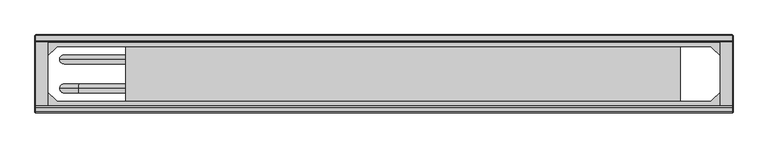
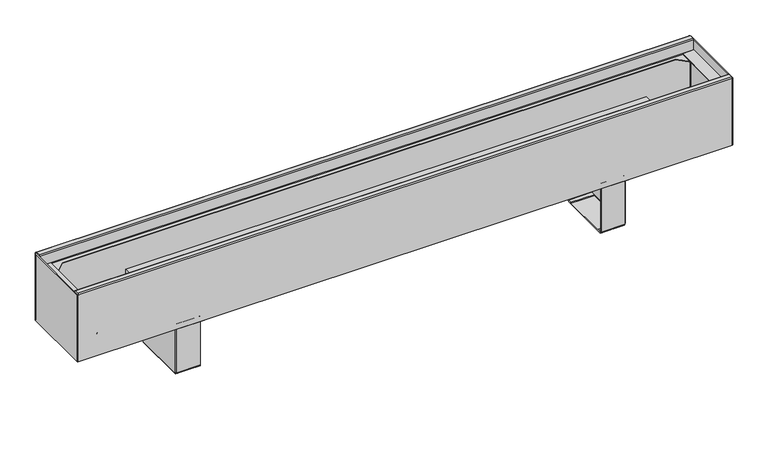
"""IFC4 building model written with IfcOpenShell, lengths in millimetres: proxy geometry, TECHNO_Конвектор напольный_Vita KPZ 135 : KPZ 135-130-1."""

from ifc_helpers import new_model, si_unit, point, frame, origin, place, context, project, spatial, polyline, circle_curve, ellipse_curve, trimmed, outline, extrude, source, transform, mapped, element, save
from ifc_brep_helpers import plane_surface, cylinder_surface, revolved_surface, advanced_brep


def mechanical_equipment_058be763(model_context):
    return source(origin(), model_context, "Body", "SolidModel", [
        advanced_brep(
        [(409.7, -116.8, 1.5), (409.7, -114.5, 3.8), (409.7, -114.5, 4.9), (409.7, -116.0, 4.9), (409.7, -116.0, 3.8), (409.7, -116.8, 3.0), (409.7, -124.5, 3.0), (409.7, -124.5, 1.5), (409.7, -117.6, 1.5), (409.7, -114.5, 97.7), (409.7, -113.7, 98.5), (409.7, -101.0, 98.5), (409.7, -101.0, 100.0), (409.7, -113.7, 100.0), (409.7, -116.0, 97.7), (409.7, -116.0, 95.5), (409.7, -114.5, 95.5), (409.7, -220.5, 3.8), (409.7, -218.2, 1.5), (409.7, -217.4, 1.5), (409.7, -210.5, 1.5), (409.7, -210.5, 3.0), (409.7, -218.2, 3.0), (409.7, -219.0, 3.8), (409.7, -219.0, 4.9), (409.7, -220.5, 4.9), (409.7, -219.0, 97.7), (409.7, -221.3, 100.0), (409.7, -234.0, 100.0), (409.7, -234.0, 98.5), (409.7, -221.3, 98.5), (409.7, -220.5, 97.7), (409.7, -220.5, 95.5), (409.7, -219.0, 95.5), (367.0, -220.5, 97.7), (367.0, -221.3, 98.5), (367.0, -234.0, 98.5), (367.0, -234.0, 100.0), (367.0, -221.3, 100.0), (367.0, -219.0, 97.7), (367.0, -219.0, 3.8), (367.0, -218.2, 3.0), (367.0, -210.5, 3.0), (367.0, -210.5, 1.5), (367.0, -124.5, 1.5), (367.0, -124.5, 3.0), (367.0, -116.8, 3.0), (367.0, -116.0, 3.8), (367.0, -116.0, 97.7), (367.0, -113.7, 100.0), (367.0, -101.0, 100.0), (367.0, -101.0, 98.5), (367.0, -113.7, 98.5), (367.0, -114.5, 97.7), (367.0, -114.5, 3.8), (367.0, -116.8, 1.5), (367.0, -117.6, 1.5), (367.0, -117.6, 0.0), (367.0, -217.4, 0.0), (367.0, -217.4, 1.5), (367.0, -218.2, 1.5), (367.0, -220.5, 3.8), (410.5, -116.8, 95.5), (410.5, -218.2, 95.5), (412.0, -218.2, 95.5), (412.0, -116.8, 95.5), (412.0, -116.8, 4.9), (412.0, -117.6, 4.9), (410.5, -117.6, 4.9), (410.5, -116.8, 4.9), (410.5, -218.2, 4.9), (410.5, -217.4, 4.9), (412.0, -217.4, 4.9), (412.0, -218.2, 4.9), (410.5, -117.6, 2.3), (410.5, -217.4, 2.3), (412.0, -217.4, 2.3), (412.0, -117.6, 2.3), (409.7, -117.6, 0.0), (409.7, -217.4, 0.0)],
        [
            (0, 1, circle_curve(frame((409.7, -116.8, 3.8), z_axis=(1.0, 0.0, 0.0), x_axis=(0.0, -1.0, 0.0)), 2.3)),
            (1, 2),
            (2, 3),
            (3, 4),
            (4, 5, circle_curve(frame((409.7, -116.8, 3.8), z_axis=(-1.0, 0.0, 0.0), x_axis=(0.0, -1.0, 0.0)), 0.8)),
            (5, 6),
            (6, 7),
            (7, 8),
            (8, 0),
            (9, 10, circle_curve(frame((409.7, -113.7, 97.7), z_axis=(-1.0, 0.0, 0.0), x_axis=(0.0, -1.0, 0.0)), 0.8)),
            (10, 11),
            (11, 12),
            (12, 13),
            (13, 14, circle_curve(frame((409.7, -113.7, 97.7), z_axis=(1.0, 0.0, 0.0), x_axis=(0.0, -1.0, 0.0)), 2.3)),
            (14, 15),
            (15, 16),
            (16, 9),
            (17, 18, circle_curve(frame((409.7, -218.2, 3.8), z_axis=(1.0, 0.0, 0.0), x_axis=(0.0, -1.0, 0.0)), 2.3)),
            (18, 19),
            (19, 20),
            (20, 21),
            (21, 22),
            (22, 23, circle_curve(frame((409.7, -218.2, 3.8), z_axis=(-1.0, 0.0, 0.0), x_axis=(0.0, -1.0, 0.0)), 0.8)),
            (23, 24),
            (24, 25),
            (25, 17),
            (26, 27, circle_curve(frame((409.7, -221.3, 97.7), z_axis=(1.0, 0.0, 0.0), x_axis=(0.0, -1.0, 0.0)), 2.3)),
            (27, 28),
            (28, 29),
            (29, 30),
            (30, 31, circle_curve(frame((409.7, -221.3, 97.7), z_axis=(-1.0, 0.0, 0.0), x_axis=(0.0, -1.0, 0.0)), 0.8)),
            (31, 32),
            (32, 33),
            (33, 26),
            (34, 35, circle_curve(frame((367.0, -221.3, 97.7), z_axis=(1.0, 0.0, 0.0), x_axis=(0.0, -1.0, 0.0)), 0.8)),
            (35, 36),
            (36, 37),
            (37, 38),
            (38, 39, circle_curve(frame((367.0, -221.3, 97.7), z_axis=(-1.0, 0.0, 0.0), x_axis=(0.0, -1.0, 0.0)), 2.3)),
            (39, 40),
            (40, 41, circle_curve(frame((367.0, -218.2, 3.8), z_axis=(1.0, 0.0, 0.0), x_axis=(0.0, -1.0, 0.0)), 0.8)),
            (41, 42),
            (42, 43),
            (43, 44),
            (44, 45),
            (45, 46),
            (46, 47, circle_curve(frame((367.0, -116.8, 3.8), z_axis=(1.0, 0.0, 0.0), x_axis=(0.0, -1.0, 0.0)), 0.8)),
            (47, 48),
            (48, 49, circle_curve(frame((367.0, -113.7, 97.7), z_axis=(-1.0, 0.0, 0.0), x_axis=(0.0, -1.0, 0.0)), 2.3)),
            (49, 50),
            (50, 51),
            (51, 52),
            (52, 53, circle_curve(frame((367.0, -113.7, 97.7), z_axis=(1.0, 0.0, 0.0), x_axis=(0.0, -1.0, 0.0)), 0.8)),
            (53, 54),
            (54, 55, circle_curve(frame((367.0, -116.8, 3.8), z_axis=(-1.0, 0.0, 0.0), x_axis=(0.0, -1.0, 0.0)), 2.3)),
            (55, 56),
            (56, 57),
            (57, 58),
            (58, 59),
            (59, 60),
            (60, 61, circle_curve(frame((367.0, -218.2, 3.8), z_axis=(-1.0, 0.0, 0.0), x_axis=(0.0, -1.0, 0.0)), 2.3)),
            (61, 34),
            (30, 35),
            (34, 31),
            (29, 36),
            (28, 37),
            (27, 38),
            (26, 39),
            (33, 24),
            (23, 40),
            (22, 41),
            (5, 46),
            (45, 6),
            (4, 47),
            (3, 15),
            (14, 48),
            (13, 49),
            (12, 50),
            (11, 51),
            (10, 52),
            (9, 53),
            (16, 2),
            (1, 54),
            (0, 55),
            (8, 56),
            (17, 61),
            (60, 18),
            (25, 32),
            (21, 42),
            (20, 43),
            (59, 19),
            (44, 7),
            (15, 62, circle_curve(frame((409.7, -116.8, 95.5), z_axis=(0.0, 0.0, -1.0), x_axis=(-1.0, 0.0, 0.0)), 0.8)),
            (62, 63),
            (63, 33, circle_curve(frame((409.7, -218.2, 95.5), z_axis=(0.0, 0.0, -1.0), x_axis=(-1.0, 0.0, 0.0)), 0.8)),
            (32, 64, circle_curve(frame((409.7, -218.2, 95.5), z_axis=(0.0, 0.0, 1.0), x_axis=(-1.0, 0.0, 0.0)), 2.3)),
            (64, 65),
            (65, 16, circle_curve(frame((409.7, -116.8, 95.5), z_axis=(0.0, 0.0, 1.0), x_axis=(-1.0, 0.0, 0.0)), 2.3)),
            (2, 66, circle_curve(frame((409.7, -116.8, 4.9), z_axis=(0.0, 0.0, -1.0), x_axis=(-1.0, 0.0, 0.0)), 2.3)),
            (66, 67),
            (67, 68),
            (68, 69),
            (69, 3, circle_curve(frame((409.7, -116.8, 4.9), z_axis=(0.0, 0.0, 1.0), x_axis=(-1.0, 0.0, 0.0)), 0.8)),
            (24, 70, circle_curve(frame((409.7, -218.2, 4.9), z_axis=(0.0, 0.0, 1.0), x_axis=(-1.0, 0.0, 0.0)), 0.8)),
            (70, 71),
            (71, 72),
            (72, 73),
            (73, 25, circle_curve(frame((409.7, -218.2, 4.9), z_axis=(0.0, 0.0, -1.0), x_axis=(-1.0, 0.0, 0.0)), 2.3)),
            (69, 62),
            (68, 74),
            (74, 75),
            (75, 71),
            (70, 63),
            (64, 73),
            (72, 76),
            (76, 77),
            (77, 67),
            (66, 65),
            (8, 74, circle_curve(frame((409.7, -117.6, 2.3), z_axis=(0.0, -1.0, 0.0), x_axis=(-1.0, 0.0, 0.0)), 0.8)),
            (77, 78, circle_curve(frame((409.7, -117.6, 2.3), z_axis=(0.0, 1.0, 0.0), x_axis=(-1.0, 0.0, 0.0)), 2.3)),
            (78, 57),
            (58, 79),
            (79, 76, circle_curve(frame((409.7, -217.4, 2.3), z_axis=(0.0, -1.0, 0.0), x_axis=(-1.0, 0.0, 0.0)), 2.3)),
            (75, 19, circle_curve(frame((409.7, -217.4, 2.3), z_axis=(0.0, 1.0, 0.0), x_axis=(-1.0, 0.0, 0.0)), 0.8)),
            (20, 7),
            (79, 78),
        ],
        [
            plane_surface(frame((409.7, -222.1, 97.7), z_axis=(1.0, 0.0, 0.0), x_axis=(0.0, 0.0, 1.0))),
            plane_surface(frame((367.0, -222.1, 97.7), z_axis=(-1.0, 0.0, 0.0), x_axis=(0.0, 0.0, -1.0))),
            revolved_surface(polyline([(409.7, -222.10000000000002, 97.7), (367.0, -222.10000000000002, 97.7)]), (409.7, -221.3, 97.7), (1.0, 0.0, 0.0)),
            plane_surface(frame((367.0, -221.3, 98.5), z_axis=(0.0, 0.0, -1.0), x_axis=(1.0, 0.0, 0.0))),
            plane_surface(frame((367.0, -234.0, 98.5), z_axis=(0.0, -1.0, 0.0), x_axis=(1.0, 0.0, 0.0))),
            plane_surface(frame((367.0, -234.0, 100.0), z_axis=(0.0, 0.0, 1.0), x_axis=(1.0, 0.0, 0.0))),
            cylinder_surface(frame((409.7, -221.3, 97.7), z_axis=(-1.0, 0.0, 0.0), x_axis=(0.0, -1.0, 0.0)), 2.3),
            plane_surface(frame((367.0, -219.0, 97.7), z_axis=(0.0, 1.0, 0.0), x_axis=(1.0, 0.0, 0.0))),
            revolved_surface(polyline([(409.7, -219.0, 3.8), (367.0, -219.0, 3.8)]), (409.7, -218.2, 3.8), (1.0, 0.0, 0.0)),
            plane_surface(frame((367.0, -124.5, 3.0), z_axis=(0.0, 0.0, 1.0), x_axis=(1.0, 0.0, 0.0))),
            revolved_surface(polyline([(409.7, -117.6, 3.8), (367.0, -117.6, 3.8)]), (412.0, -116.8, 3.8), (1.0, 0.0, 0.0)),
            plane_surface(frame((367.0, -116.0, 3.8), z_axis=(0.0, -1.0, 0.0), x_axis=(1.0, 0.0, 0.0))),
            cylinder_surface(frame((412.0, -113.7, 97.7), z_axis=(-1.0, 0.0, 0.0), x_axis=(0.0, -1.0, 0.0)), 2.3),
            plane_surface(frame((367.0, -113.7, 100.0), z_axis=(0.0, 0.0, 1.0), x_axis=(1.0, 0.0, 0.0))),
            plane_surface(frame((367.0, -101.0, 100.0), z_axis=(0.0, 1.0, 0.0), x_axis=(1.0, 0.0, 0.0))),
            plane_surface(frame((367.0, -101.0, 98.5), z_axis=(0.0, 0.0, -1.0), x_axis=(1.0, 0.0, 0.0))),
            revolved_surface(polyline([(409.7, -114.5, 97.7), (367.0, -114.5, 97.7)]), (412.0, -113.7, 97.7), (1.0, 0.0, 0.0)),
            plane_surface(frame((367.0, -114.5, 97.7), z_axis=(0.0, 1.0, 0.0), x_axis=(1.0, 0.0, 0.0))),
            cylinder_surface(frame((412.0, -116.8, 3.8), z_axis=(-1.0, 0.0, 0.0), x_axis=(0.0, -1.0, 0.0)), 2.3),
            plane_surface(frame((367.0, -116.8, 1.5), z_axis=(0.0, 0.0, -1.0), x_axis=(1.0, 0.0, 0.0))),
            cylinder_surface(frame((409.7, -218.2, 3.8), z_axis=(-1.0, 0.0, 0.0), x_axis=(0.0, -1.0, 0.0)), 2.3),
            plane_surface(frame((367.0, -220.5, 3.8), z_axis=(0.0, -1.0, 0.0), x_axis=(1.0, 0.0, 0.0))),
            plane_surface(frame((367.0, -218.2, 3.0), z_axis=(0.0, 0.0, 1.0), x_axis=(1.0, 0.0, 0.0))),
            plane_surface(frame((367.0, -210.5, 3.0), z_axis=(0.0, 1.0, 0.0), x_axis=(1.0, 0.0, 0.0))),
            plane_surface(frame((367.0, -210.5, 1.5), z_axis=(0.0, 0.0, -1.0), x_axis=(1.0, 0.0, 0.0))),
            plane_surface(frame((367.0, -124.5, 1.5), z_axis=(0.0, -1.0, 0.0), x_axis=(1.0, 0.0, 0.0))),
            plane_surface(frame((409.7, -116.0, 95.5), z_axis=(0.0, 0.0, 1.0), x_axis=(0.0, -1.0, 0.0))),
            plane_surface(frame((409.7, -116.0, 4.9), z_axis=(0.0, 0.0, -1.0), x_axis=(0.0, 1.0, 0.0))),
            revolved_surface(polyline([(408.9, -116.8, 4.9), (408.9, -116.8, 95.5)]), (409.7, -116.8, 4.9), (0.0, 0.0, -1.0)),
            plane_surface(frame((410.5, -116.8, 95.5), z_axis=(-1.0, 0.0, 0.0), x_axis=(0.0, 0.0, -1.0))),
            plane_surface(frame((412.0, -117.6, 95.5), z_axis=(1.0, 0.0, 0.0), x_axis=(0.0, 0.0, -1.0))),
            cylinder_surface(frame((409.7, -116.8, 4.9), z_axis=(0.0, 0.0, 1.0), x_axis=(-1.0, 0.0, 0.0)), 2.3),
            cylinder_surface(frame((409.7, -218.2, 0.0), z_axis=(0.0, 0.0, 1.0), x_axis=(-1.0, 0.0, 0.0)), 2.3),
            revolved_surface(polyline([(408.9, -218.2, 4.9), (408.9, -218.2, 95.5)]), (409.7, -218.2, 0.0), (0.0, 0.0, -1.0)),
            plane_surface(frame((367.0, -117.6, 1.5), z_axis=(0.0, 1.0, 0.0), x_axis=(0.0, 0.0, 1.0))),
            plane_surface(frame((367.0, -217.4, 1.5), z_axis=(0.0, -1.0, 0.0), x_axis=(0.0, 0.0, -1.0))),
            plane_surface(frame((367.0, -117.6, 1.5), z_axis=(0.0, 0.0, 1.0), x_axis=(0.0, -1.0, 0.0))),
            revolved_surface(polyline([(408.9, -217.4, 2.3), (408.9, -117.6, 2.3)]), (409.7, -217.4, 2.3), (0.0, -1.0, 0.0)),
            cylinder_surface(frame((409.7, -217.4, 2.3), z_axis=(0.0, 1.0, 0.0), x_axis=(-1.0, 0.0, 0.0)), 2.3),
            plane_surface(frame((409.7, -117.6, 0.0), z_axis=(0.0, 0.0, -1.0), x_axis=(0.0, -1.0, 0.0))),
        ],
        [
            (0, [[1, 2, 3, 4, 5, 6, 7, 8, 9]]),
            (0, [[10, 11, 12, 13, 14, 15, 16, 17]]),
            (0, [[18, 19, 20, 21, 22, 23, 24, 25, 26]]),
            (0, [[27, 28, 29, 30, 31, 32, 33, 34]]),
            (1, [[35, 36, 37, 38, 39, 40, 41, 42, 43, 44, 45, 46, 47, 48, 49, 50, 51, 52, 53, 54, 55, 56, 57, 58, 59, 60, 61, 62]]),
            (2, [[-31, 63, -35, 64]]),
            (3, [[-30, 65, -36, -63]]),
            (4, [[-29, 66, -37, -65]]),
            (5, [[-28, 67, -38, -66]]),
            (6, [[-27, 68, -39, -67]]),
            (7, [[-40, -68, -34, 69, -24, 70]]),
            (8, [[-23, 71, -41, -70]]),
            (9, [[-6, 72, -46, 73]]),
            (10, [[-5, 74, -47, -72]]),
            (11, [[-48, -74, -4, 75, -15, 76]]),
            (12, [[-14, 77, -49, -76]]),
            (13, [[-13, 78, -50, -77]]),
            (14, [[-12, 79, -51, -78]]),
            (15, [[-11, 80, -52, -79]]),
            (16, [[-10, 81, -53, -80]]),
            (17, [[-54, -81, -17, 82, -2, 83]]),
            (18, [[-1, 84, -55, -83]]),
            (19, [[-84, -9, 85, -56]]),
            (20, [[-18, 86, -61, 87]]),
            (21, [[-62, -86, -26, 88, -32, -64]]),
            (22, [[-22, 89, -42, -71]]),
            (23, [[-21, 90, -43, -89]]),
            (24, [[-87, -60, 91, -19]]),
            (25, [[-7, -73, -45, 92]]),
            (26, [[93, 94, 95, -33, 96, 97, 98, -16]]),
            (27, [[99, 100, 101, 102, 103, -3]]),
            (27, [[104, 105, 106, 107, 108, -25]]),
            (28, [[-93, -75, -103, 109]]),
            (29, [[-94, -109, -102, 110, 111, 112, -105, 113]]),
            (30, [[-97, 114, -107, 115, 116, 117, -100, 118]]),
            (31, [[-98, -118, -99, -82]]),
            (32, [[-96, -88, -108, -114]]),
            (33, [[-95, -113, -104, -69]]),
            (34, [[-57, -85, 119, -110, -101, -117, 120, 121]]),
            (35, [[122, 123, -115, -106, -112, 124, -91, -59]]),
            (36, [[125, -92, -44, -90]]),
            (37, [[-119, -8, -125, -20, -124, -111]]),
            (38, [[-120, -116, -123, 126]]),
            (39, [[-121, -126, -122, -58]]),
        ],
    ),
        advanced_brep(
        [(-409.7, -218.2, 1.5), (-409.7, -220.5, 3.8), (-409.7, -220.5, 4.9), (-409.7, -219.0, 4.9), (-409.7, -219.0, 3.8), (-409.7, -218.2, 3.0), (-409.7, -210.5, 3.0), (-409.7, -210.5, 1.5), (-409.7, -217.4, 1.5), (-409.7, -220.5, 97.7), (-409.7, -221.3, 98.5), (-409.7, -234.0, 98.5), (-409.7, -234.0, 100.0), (-409.7, -221.3, 100.0), (-409.7, -219.0, 97.7), (-409.7, -219.0, 95.5), (-409.7, -220.5, 95.5), (-409.7, -114.5, 3.8), (-409.7, -116.8, 1.5), (-409.7, -117.6, 1.5), (-409.7, -124.5, 1.5), (-409.7, -124.5, 3.0), (-409.7, -116.8, 3.0), (-409.7, -116.0, 3.8), (-409.7, -116.0, 4.9), (-409.7, -114.5, 4.9), (-409.7, -116.0, 97.7), (-409.7, -113.7, 100.0), (-409.7, -101.0, 100.0), (-409.7, -101.0, 98.5), (-409.7, -113.7, 98.5), (-409.7, -114.5, 97.7), (-409.7, -114.5, 95.5), (-409.7, -116.0, 95.5), (-367.0, -114.5, 97.7), (-367.0, -113.7, 98.5), (-367.0, -101.0, 98.5), (-367.0, -101.0, 100.0), (-367.0, -113.7, 100.0), (-367.0, -116.0, 97.7), (-367.0, -116.0, 3.8), (-367.0, -116.8, 3.0), (-367.0, -124.5, 3.0), (-367.0, -124.5, 1.5), (-367.0, -210.5, 1.5), (-367.0, -210.5, 3.0), (-367.0, -218.2, 3.0), (-367.0, -219.0, 3.8), (-367.0, -219.0, 97.7), (-367.0, -221.3, 100.0), (-367.0, -234.0, 100.0), (-367.0, -234.0, 98.5), (-367.0, -221.3, 98.5), (-367.0, -220.5, 97.7), (-367.0, -220.5, 3.8), (-367.0, -218.2, 1.5), (-367.0, -217.4, 1.5), (-367.0, -217.4, 0.0), (-367.0, -117.6, 0.0), (-367.0, -117.6, 1.5), (-367.0, -116.8, 1.5), (-367.0, -114.5, 3.8), (-410.5, -218.2, 95.5), (-410.5, -116.8, 95.5), (-412.0, -116.8, 95.5), (-412.0, -218.2, 95.5), (-412.0, -218.2, 4.9), (-412.0, -217.4, 4.9), (-410.5, -217.4, 4.9), (-410.5, -218.2, 4.9), (-410.5, -116.8, 4.9), (-410.5, -117.6, 4.9), (-412.0, -117.6, 4.9), (-412.0, -116.8, 4.9), (-410.5, -217.4, 2.3), (-410.5, -117.6, 2.3), (-412.0, -117.6, 2.3), (-412.0, -217.4, 2.3), (-409.7, -217.4, 0.0), (-409.7, -117.6, 0.0)],
        [
            (0, 1, circle_curve(frame((-409.7, -218.2, 3.8), z_axis=(-1.0, 0.0, 0.0), x_axis=(0.0, 1.0, 0.0)), 2.3)),
            (1, 2),
            (2, 3),
            (3, 4),
            (4, 5, circle_curve(frame((-409.7, -218.2, 3.8), z_axis=(1.0, 0.0, 0.0), x_axis=(0.0, 1.0, 0.0)), 0.8)),
            (5, 6),
            (6, 7),
            (7, 8),
            (8, 0),
            (9, 10, circle_curve(frame((-409.7, -221.3, 97.7), z_axis=(1.0, 0.0, 0.0), x_axis=(0.0, 1.0, 0.0)), 0.8)),
            (10, 11),
            (11, 12),
            (12, 13),
            (13, 14, circle_curve(frame((-409.7, -221.3, 97.7), z_axis=(-1.0, 0.0, 0.0), x_axis=(0.0, 1.0, 0.0)), 2.3)),
            (14, 15),
            (15, 16),
            (16, 9),
            (17, 18, circle_curve(frame((-409.7, -116.8, 3.8), z_axis=(-1.0, 0.0, 0.0), x_axis=(0.0, 1.0, 0.0)), 2.3)),
            (18, 19),
            (19, 20),
            (20, 21),
            (21, 22),
            (22, 23, circle_curve(frame((-409.7, -116.8, 3.8), z_axis=(1.0, 0.0, 0.0), x_axis=(0.0, 1.0, 0.0)), 0.8)),
            (23, 24),
            (24, 25),
            (25, 17),
            (26, 27, circle_curve(frame((-409.7, -113.7, 97.7), z_axis=(-1.0, 0.0, 0.0), x_axis=(0.0, 1.0, 0.0)), 2.3)),
            (27, 28),
            (28, 29),
            (29, 30),
            (30, 31, circle_curve(frame((-409.7, -113.7, 97.7), z_axis=(1.0, 0.0, 0.0), x_axis=(0.0, 1.0, 0.0)), 0.8)),
            (31, 32),
            (32, 33),
            (33, 26),
            (34, 35, circle_curve(frame((-367.0, -113.7, 97.7), z_axis=(-1.0, 0.0, 0.0), x_axis=(0.0, 1.0, 0.0)), 0.8)),
            (35, 36),
            (36, 37),
            (37, 38),
            (38, 39, circle_curve(frame((-367.0, -113.7, 97.7), z_axis=(1.0, 0.0, 0.0), x_axis=(0.0, 1.0, 0.0)), 2.3)),
            (39, 40),
            (40, 41, circle_curve(frame((-367.0, -116.8, 3.8), z_axis=(-1.0, 0.0, 0.0), x_axis=(0.0, 1.0, 0.0)), 0.8)),
            (41, 42),
            (42, 43),
            (43, 44),
            (44, 45),
            (45, 46),
            (46, 47, circle_curve(frame((-367.0, -218.2, 3.8), z_axis=(-1.0, 0.0, 0.0), x_axis=(0.0, 1.0, 0.0)), 0.8)),
            (47, 48),
            (48, 49, circle_curve(frame((-367.0, -221.3, 97.7), z_axis=(1.0, 0.0, 0.0), x_axis=(0.0, 1.0, 0.0)), 2.3)),
            (49, 50),
            (50, 51),
            (51, 52),
            (52, 53, circle_curve(frame((-367.0, -221.3, 97.7), z_axis=(-1.0, 0.0, 0.0), x_axis=(0.0, 1.0, 0.0)), 0.8)),
            (53, 54),
            (54, 55, circle_curve(frame((-367.0, -218.2, 3.8), z_axis=(1.0, 0.0, 0.0), x_axis=(0.0, 1.0, 0.0)), 2.3)),
            (55, 56),
            (56, 57),
            (57, 58),
            (58, 59),
            (59, 60),
            (60, 61, circle_curve(frame((-367.0, -116.8, 3.8), z_axis=(1.0, 0.0, 0.0), x_axis=(0.0, 1.0, 0.0)), 2.3)),
            (61, 34),
            (30, 35),
            (34, 31),
            (29, 36),
            (28, 37),
            (27, 38),
            (26, 39),
            (33, 24),
            (23, 40),
            (22, 41),
            (5, 46),
            (45, 6),
            (4, 47),
            (3, 15),
            (14, 48),
            (13, 49),
            (12, 50),
            (11, 51),
            (10, 52),
            (9, 53),
            (16, 2),
            (1, 54),
            (0, 55),
            (8, 56),
            (17, 61),
            (60, 18),
            (25, 32),
            (21, 42),
            (20, 43),
            (59, 19),
            (44, 7),
            (15, 62, circle_curve(frame((-409.7, -218.2, 95.5), z_axis=(0.0, 0.0, -1.0), x_axis=(1.0, 0.0, 0.0)), 0.8)),
            (62, 63),
            (63, 33, circle_curve(frame((-409.7, -116.8, 95.5), z_axis=(0.0, 0.0, -1.0), x_axis=(1.0, 0.0, 0.0)), 0.8)),
            (32, 64, circle_curve(frame((-409.7, -116.8, 95.5), z_axis=(0.0, 0.0, 1.0), x_axis=(1.0, 0.0, 0.0)), 2.3)),
            (64, 65),
            (65, 16, circle_curve(frame((-409.7, -218.2, 95.5), z_axis=(0.0, 0.0, 1.0), x_axis=(1.0, 0.0, 0.0)), 2.3)),
            (2, 66, circle_curve(frame((-409.7, -218.2, 4.9), z_axis=(0.0, 0.0, -1.0), x_axis=(1.0, 0.0, 0.0)), 2.3)),
            (66, 67),
            (67, 68),
            (68, 69),
            (69, 3, circle_curve(frame((-409.7, -218.2, 4.9), z_axis=(0.0, 0.0, 1.0), x_axis=(1.0, 0.0, 0.0)), 0.8)),
            (24, 70, circle_curve(frame((-409.7, -116.8, 4.9), z_axis=(0.0, 0.0, 1.0), x_axis=(1.0, 0.0, 0.0)), 0.8)),
            (70, 71),
            (71, 72),
            (72, 73),
            (73, 25, circle_curve(frame((-409.7, -116.8, 4.9), z_axis=(0.0, 0.0, -1.0), x_axis=(1.0, 0.0, 0.0)), 2.3)),
            (69, 62),
            (68, 74),
            (74, 75),
            (75, 71),
            (70, 63),
            (64, 73),
            (72, 76),
            (76, 77),
            (77, 67),
            (66, 65),
            (8, 74, circle_curve(frame((-409.7, -217.4, 2.3), z_axis=(0.0, 1.0, 0.0), x_axis=(1.0, 0.0, 0.0)), 0.8)),
            (77, 78, circle_curve(frame((-409.7, -217.4, 2.3), z_axis=(0.0, -1.0, 0.0), x_axis=(1.0, 0.0, 0.0)), 2.3)),
            (78, 57),
            (58, 79),
            (79, 76, circle_curve(frame((-409.7, -117.6, 2.3), z_axis=(0.0, 1.0, 0.0), x_axis=(1.0, 0.0, 0.0)), 2.3)),
            (75, 19, circle_curve(frame((-409.7, -117.6, 2.3), z_axis=(0.0, -1.0, 0.0), x_axis=(1.0, 0.0, 0.0)), 0.8)),
            (20, 7),
            (79, 78),
        ],
        [
            plane_surface(frame((-409.7, -112.9, 97.7), z_axis=(-1.0, 0.0, 0.0), x_axis=(0.0, 0.0, 1.0))),
            plane_surface(frame((-367.0, -112.9, 97.7), z_axis=(1.0, 0.0, 0.0), x_axis=(0.0, 0.0, -1.0))),
            revolved_surface(polyline([(-409.7, -112.9, 97.7), (-367.0, -112.9, 97.7)]), (-409.7, -113.7, 97.7), (-1.0, 0.0, 0.0)),
            plane_surface(frame((-367.0, -113.7, 98.5), z_axis=(0.0, 0.0, -1.0), x_axis=(-1.0, 0.0, 0.0))),
            plane_surface(frame((-367.0, -101.0, 98.5), z_axis=(0.0, 1.0, 0.0), x_axis=(-1.0, 0.0, 0.0))),
            plane_surface(frame((-367.0, -101.0, 100.0), z_axis=(0.0, 0.0, 1.0), x_axis=(-1.0, 0.0, 0.0))),
            cylinder_surface(frame((-409.7, -113.7, 97.7), z_axis=(1.0, 0.0, 0.0), x_axis=(0.0, 1.0, 0.0)), 2.3),
            plane_surface(frame((-367.0, -116.0, 97.7), z_axis=(0.0, -1.0, 0.0), x_axis=(-1.0, 0.0, 0.0))),
            revolved_surface(polyline([(-409.7, -116.0, 3.8), (-367.0, -116.0, 3.8)]), (-409.7, -116.8, 3.8), (-1.0, 0.0, 0.0)),
            plane_surface(frame((-367.0, -210.5, 3.0), z_axis=(0.0, 0.0, 1.0), x_axis=(-1.0, 0.0, 0.0))),
            revolved_surface(polyline([(-409.7, -217.39999999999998, 3.8), (-367.0, -217.39999999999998, 3.8)]), (-412.0, -218.2, 3.8), (-1.0, 0.0, 0.0)),
            plane_surface(frame((-367.0, -219.0, 3.8), z_axis=(0.0, 1.0, 0.0), x_axis=(-1.0, 0.0, 0.0))),
            cylinder_surface(frame((-412.0, -221.3, 97.7), z_axis=(1.0, 0.0, 0.0), x_axis=(0.0, 1.0, 0.0)), 2.3),
            plane_surface(frame((-367.0, -221.3, 100.0), z_axis=(0.0, 0.0, 1.0), x_axis=(-1.0, 0.0, 0.0))),
            plane_surface(frame((-367.0, -234.0, 100.0), z_axis=(0.0, -1.0, 0.0), x_axis=(-1.0, 0.0, 0.0))),
            plane_surface(frame((-367.0, -234.0, 98.5), z_axis=(0.0, 0.0, -1.0), x_axis=(-1.0, 0.0, 0.0))),
            revolved_surface(polyline([(-409.7, -220.5, 97.7), (-367.0, -220.5, 97.7)]), (-412.0, -221.3, 97.7), (-1.0, 0.0, 0.0)),
            plane_surface(frame((-367.0, -220.5, 97.7), z_axis=(0.0, -1.0, 0.0), x_axis=(-1.0, 0.0, 0.0))),
            cylinder_surface(frame((-412.0, -218.2, 3.8), z_axis=(1.0, 0.0, 0.0), x_axis=(0.0, 1.0, 0.0)), 2.3),
            plane_surface(frame((-367.0, -218.2, 1.5), z_axis=(0.0, 0.0, -1.0), x_axis=(-1.0, 0.0, 0.0))),
            cylinder_surface(frame((-409.7, -116.8, 3.8), z_axis=(1.0, 0.0, 0.0), x_axis=(0.0, 1.0, 0.0)), 2.3),
            plane_surface(frame((-367.0, -114.5, 3.8), z_axis=(0.0, 1.0, 0.0), x_axis=(-1.0, 0.0, 0.0))),
            plane_surface(frame((-367.0, -116.8, 3.0), z_axis=(0.0, 0.0, 1.0), x_axis=(-1.0, 0.0, 0.0))),
            plane_surface(frame((-367.0, -124.5, 3.0), z_axis=(0.0, -1.0, 0.0), x_axis=(-1.0, 0.0, 0.0))),
            plane_surface(frame((-367.0, -124.5, 1.5), z_axis=(0.0, 0.0, -1.0), x_axis=(-1.0, 0.0, 0.0))),
            plane_surface(frame((-367.0, -210.5, 1.5), z_axis=(0.0, 1.0, 0.0), x_axis=(-1.0, 0.0, 0.0))),
            plane_surface(frame((-409.7, -219.0, 95.5), z_axis=(0.0, 0.0, 1.0), x_axis=(0.0, 1.0, 0.0))),
            plane_surface(frame((-409.7, -219.0, 4.9), z_axis=(0.0, 0.0, -1.0), x_axis=(0.0, -1.0, 0.0))),
            revolved_surface(polyline([(-408.9, -218.2, 4.9), (-408.9, -218.2, 95.5)]), (-409.7, -218.2, 4.9), (0.0, 0.0, -1.0)),
            plane_surface(frame((-410.5, -218.2, 95.5), z_axis=(1.0, 0.0, 0.0), x_axis=(0.0, 0.0, -1.0))),
            plane_surface(frame((-412.0, -217.4, 95.5), z_axis=(-1.0, 0.0, 0.0), x_axis=(0.0, 0.0, -1.0))),
            cylinder_surface(frame((-409.7, -218.2, 4.9), z_axis=(0.0, 0.0, 1.0), x_axis=(1.0, 0.0, 0.0)), 2.3),
            cylinder_surface(frame((-409.7, -116.8, 0.0), z_axis=(0.0, 0.0, 1.0), x_axis=(1.0, 0.0, 0.0)), 2.3),
            revolved_surface(polyline([(-408.9, -116.8, 4.9), (-408.9, -116.8, 95.5)]), (-409.7, -116.8, 0.0), (0.0, 0.0, -1.0)),
            plane_surface(frame((-367.0, -217.4, 1.5), z_axis=(0.0, -1.0, 0.0), x_axis=(0.0, 0.0, 1.0))),
            plane_surface(frame((-367.0, -117.6, 1.5), z_axis=(0.0, 1.0, 0.0), x_axis=(0.0, 0.0, -1.0))),
            plane_surface(frame((-367.0, -217.4, 1.5), z_axis=(0.0, 0.0, 1.0), x_axis=(0.0, 1.0, 0.0))),
            revolved_surface(polyline([(-408.9, -117.6, 2.3), (-408.9, -217.4, 2.3)]), (-409.7, -117.6, 2.3), (0.0, 1.0, 0.0)),
            cylinder_surface(frame((-409.7, -117.6, 2.3), z_axis=(0.0, -1.0, 0.0), x_axis=(1.0, 0.0, 0.0)), 2.3),
            plane_surface(frame((-409.7, -217.4, 0.0), z_axis=(0.0, 0.0, -1.0), x_axis=(0.0, 1.0, 0.0))),
        ],
        [
            (0, [[1, 2, 3, 4, 5, 6, 7, 8, 9]]),
            (0, [[10, 11, 12, 13, 14, 15, 16, 17]]),
            (0, [[18, 19, 20, 21, 22, 23, 24, 25, 26]]),
            (0, [[27, 28, 29, 30, 31, 32, 33, 34]]),
            (1, [[35, 36, 37, 38, 39, 40, 41, 42, 43, 44, 45, 46, 47, 48, 49, 50, 51, 52, 53, 54, 55, 56, 57, 58, 59, 60, 61, 62]]),
            (2, [[-31, 63, -35, 64]]),
            (3, [[-30, 65, -36, -63]]),
            (4, [[-29, 66, -37, -65]]),
            (5, [[-28, 67, -38, -66]]),
            (6, [[-27, 68, -39, -67]]),
            (7, [[-40, -68, -34, 69, -24, 70]]),
            (8, [[-23, 71, -41, -70]]),
            (9, [[-6, 72, -46, 73]]),
            (10, [[-5, 74, -47, -72]]),
            (11, [[-48, -74, -4, 75, -15, 76]]),
            (12, [[-14, 77, -49, -76]]),
            (13, [[-13, 78, -50, -77]]),
            (14, [[-12, 79, -51, -78]]),
            (15, [[-11, 80, -52, -79]]),
            (16, [[-10, 81, -53, -80]]),
            (17, [[-54, -81, -17, 82, -2, 83]]),
            (18, [[-1, 84, -55, -83]]),
            (19, [[-84, -9, 85, -56]]),
            (20, [[-18, 86, -61, 87]]),
            (21, [[-62, -86, -26, 88, -32, -64]]),
            (22, [[-22, 89, -42, -71]]),
            (23, [[-21, 90, -43, -89]]),
            (24, [[-87, -60, 91, -19]]),
            (25, [[-7, -73, -45, 92]]),
            (26, [[93, 94, 95, -33, 96, 97, 98, -16]]),
            (27, [[99, 100, 101, 102, 103, -3]]),
            (27, [[104, 105, 106, 107, 108, -25]]),
            (28, [[-93, -75, -103, 109]]),
            (29, [[-94, -109, -102, 110, 111, 112, -105, 113]]),
            (30, [[-97, 114, -107, 115, 116, 117, -100, 118]]),
            (31, [[-98, -118, -99, -82]]),
            (32, [[-96, -88, -108, -114]]),
            (33, [[-95, -113, -104, -69]]),
            (34, [[-57, -85, 119, -110, -101, -117, 120, 121]]),
            (35, [[122, 123, -115, -106, -112, 124, -91, -59]]),
            (36, [[125, -92, -44, -90]]),
            (37, [[-119, -8, -125, -20, -124, -111]]),
            (38, [[-120, -116, -123, 126]]),
            (39, [[-121, -126, -122, -58]]),
        ],
    ),
        advanced_brep(
        [(-444.0, -192.5, 136.5), (-444.0, -192.5, 121.5), (-525.0, -192.5, 136.5), (-525.0, -192.5, 121.5), (-542.5, -192.5, 104.0), (-557.5, -192.5, 104.0), (-557.5, -192.5, 100.0), (-542.5, -192.5, 100.0)],
        [
            (0, 1, circle_curve(frame((-444.0, -192.5, 129.0), z_axis=(1.0, 0.0, 0.0), x_axis=(0.0, 0.0, -1.0)), 7.5)),
            (1, 0, circle_curve(frame((-444.0, -192.5, 129.0), z_axis=(1.0, 0.0, 0.0), x_axis=(0.0, 0.0, -1.0)), 7.5)),
            (0, 2),
            (2, 3, circle_curve(frame((-525.0, -192.5, 129.0), z_axis=(1.0, 0.0, 0.0), x_axis=(0.0, 0.0, -1.0)), 7.5)),
            (3, 1),
            (3, 2, circle_curve(frame((-525.0, -192.5, 129.0), z_axis=(1.0, 0.0, 0.0), x_axis=(0.0, 0.0, -1.0)), 7.5)),
            (4, 3, circle_curve(frame((-525.0, -192.5, 104.0), z_axis=(0.0, 1.0, 0.0), x_axis=(0.0, 0.0, 1.0)), 17.5)),
            (2, 5, circle_curve(frame((-525.0, -192.5, 104.0), z_axis=(0.0, -1.0, 0.0), x_axis=(0.0, 0.0, 1.0)), 32.5)),
            (5, 4, circle_curve(frame((-550.0, -192.5, 104.0), z_axis=(0.0, 0.0, 1.0), x_axis=(1.0, 0.0, 0.0)), 7.5)),
            (4, 5, circle_curve(frame((-550.0, -192.5, 104.0), z_axis=(0.0, 0.0, 1.0), x_axis=(1.0, 0.0, 0.0)), 7.5)),
            (6, 7, circle_curve(frame((-550.0, -192.5, 100.0), z_axis=(0.0, 0.0, -1.0), x_axis=(1.0, 0.0, 0.0)), 7.5)),
            (7, 6, circle_curve(frame((-550.0, -192.5, 100.0), z_axis=(0.0, 0.0, -1.0), x_axis=(1.0, 0.0, 0.0)), 7.5)),
            (5, 6),
            (7, 4),
        ],
        [
            plane_surface(frame((-444.0, -192.5, 129.0), z_axis=(1.0, 0.0, 0.0), x_axis=(0.0, -1.0, 0.0))),
            cylinder_surface(frame((-444.0, -192.5, 129.0), z_axis=(1.0, 0.0, 0.0), x_axis=(0.0, 0.0, -1.0)), 7.5),
            revolved_surface(trimmed(ellipse_curve(frame((-525.0, -192.5, 129.0), z_axis=(1.0, 0.0, 0.0), x_axis=(0.0, 0.0, -1.0)), 7.5, 7.5), [point((-525.0, -192.5, 136.5))], [point((-525.0, -192.5, 121.5))], True, "CARTESIAN"), (-525.0, -192.5, 104.0), (0.0, -1.0, 0.0)),
            revolved_surface(trimmed(ellipse_curve(frame((-525.0, -192.5, 129.0), z_axis=(1.0, 0.0, 0.0), x_axis=(0.0, 0.0, -1.0)), 7.5, 7.5), [point((-525.0, -192.5, 121.5))], [point((-525.0, -192.5, 136.5))], True, "CARTESIAN"), (-525.0, -192.5, 104.0), (0.0, -1.0, 0.0)),
            plane_surface(frame((-550.0, -192.5, 100.0), z_axis=(0.0, 0.0, -1.0), x_axis=(0.0, -1.0, 0.0))),
            cylinder_surface(frame((-550.0, -192.5, 104.0), z_axis=(0.0, 0.0, 1.0), x_axis=(1.0, 0.0, 0.0)), 7.5),
        ],
        [
            (0, [[1, 2]]),
            (1, [[-1, 3, 4, 5]]),
            (1, [[-2, -5, 6, -3]]),
            (2, [[7, -4, 8, 9]]),
            (3, [[-8, -6, -7, 10]]),
            (4, [[11, 12]]),
            (5, [[-9, 13, -12, 14]]),
            (5, [[-10, -14, -11, -13]]),
        ],
    ),
        advanced_brep(
        [(-444.0, -142.5, 136.5), (-444.0, -142.5, 121.5), (-557.5, -142.5, 136.5), (-542.5, -142.5, 121.5), (-557.5, -142.5, 100.0), (-542.5, -142.5, 100.0)],
        [
            (0, 1, circle_curve(frame((-444.0, -142.5, 129.0), z_axis=(1.0, 0.0, 0.0), x_axis=(0.0, 0.0, -1.0)), 7.5)),
            (1, 0, circle_curve(frame((-444.0, -142.5, 129.0), z_axis=(1.0, 0.0, 0.0), x_axis=(0.0, 0.0, -1.0)), 7.5)),
            (0, 2),
            (2, 3, ellipse_curve(frame((-550.0, -142.5, 129.0), z_axis=(0.7071067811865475, 0.0, 0.7071067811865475), x_axis=(0.7071067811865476, 0.0, -0.7071067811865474)), 10.6066017, 7.5)),
            (3, 1),
            (3, 2, ellipse_curve(frame((-550.0, -142.5, 129.0), z_axis=(0.7071067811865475, 0.0, 0.7071067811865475), x_axis=(0.7071067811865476, 0.0, -0.7071067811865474)), 10.6066017, 7.5)),
            (4, 5, circle_curve(frame((-550.0, -142.5, 100.0), z_axis=(0.0, 0.0, -1.0), x_axis=(1.0, 0.0, 0.0)), 7.5)),
            (5, 4, circle_curve(frame((-550.0, -142.5, 100.0), z_axis=(0.0, 0.0, -1.0), x_axis=(1.0, 0.0, 0.0)), 7.5)),
            (2, 4),
            (5, 3),
        ],
        [
            plane_surface(frame((-444.0, -142.5, 129.0), z_axis=(1.0, 0.0, 0.0), x_axis=(0.0, -1.0, 0.0))),
            cylinder_surface(frame((-444.0, -142.5, 129.0), z_axis=(1.0, 0.0, 0.0), x_axis=(0.0, 0.0, -1.0)), 7.5),
            plane_surface(frame((-550.0, -142.5, 100.0), z_axis=(0.0, 0.0, -1.0), x_axis=(0.0, -1.0, 0.0))),
            cylinder_surface(frame((-550.0, -142.5, 129.0), z_axis=(0.0, 0.0, 1.0), x_axis=(1.0, 0.0, 0.0)), 7.5),
        ],
        [
            (0, [[1, 2]]),
            (1, [[-1, 3, 4, 5]]),
            (1, [[-2, -5, 6, -3]]),
            (2, [[7, 8]]),
            (3, [[-4, 9, -8, 10]]),
            (3, [[-6, -10, -7, -9]]),
        ],
    ),
        extrude(outline(polyline([(509.0, -117.5), (509.0, -217.5), (-444.0, -217.5), (-444.0, -117.5), (509.0, -117.5)])), frame((0.0, 0.0, 103.87), z_axis=(0.0, 0.0, 1.0), x_axis=(1.0, 0.0, 0.0)), (0.0, 0.0, 1.0), 50.0),
        extrude(outline(polyline([(-585.5004, -102.0), (-585.5004, -233.0), (-599.0, -233.0), (-599.0, -102.0), (-585.5004, -102.0)])), frame((0.0, 0.0, 101.83), z_axis=(0.0, 0.0, 1.0), x_axis=(1.0, 0.0, 0.0)), (0.0, 0.0, 1.0), 1.0002),
        extrude(outline(polyline([(585.5004, -102.0), (599.0, -102.0), (599.0, -233.0), (585.5004, -233.0), (585.5004, -102.0)])), frame((0.0, 0.0, 101.83), z_axis=(0.0, 0.0, 1.0), x_axis=(1.0, 0.0, 0.0)), (0.0, 0.0, 1.0), 1.0002),
        extrude(outline(polyline([(-599.0, -222.2), (-599.0, -112.8), (-578.0, -112.8), (-578.0, -222.2), (-599.0, -222.2)])), frame((0.0, 0.0, 208.83), z_axis=(0.0, 0.0, 1.0), x_axis=(1.0, 0.0, 0.0)), (0.0, 0.0, 1.0), 1.0002),
        extrude(outline(polyline([(599.0, -222.2), (578.0, -222.2), (578.0, -112.8), (599.0, -112.8), (599.0, -222.2)])), frame((0.0, 0.0, 208.83), z_axis=(0.0, 0.0, 1.0), x_axis=(1.0, 0.0, 0.0)), (0.0, 0.0, 1.0), 1.0002),
        advanced_brep(
        [(-598.2, -101.8, 230.83), (-598.2, -100.0, 229.03), (-598.2, -101.0, 229.03), (-598.2, -101.0, 207.83), (-598.2, -138.5, 207.83), (-598.2, -138.5, 208.83), (-598.2, -112.8, 208.83), (-598.2, -112.0, 209.63), (-598.2, -112.0, 229.03), (-598.2, -110.2, 230.83), (-598.2, -233.2, 230.83), (-598.2, -224.8, 230.83), (-598.2, -223.0, 229.03), (-598.2, -223.0, 209.63), (-598.2, -222.2, 208.83), (-598.2, -196.5, 208.83), (-598.2, -196.5, 207.83), (-598.2, -234.0, 207.83), (-598.2, -234.0, 229.03), (-598.2, -235.0, 229.03), (598.2, -101.8, 230.83), (598.2, -110.2, 230.83), (598.2, -112.0, 229.03), (598.2, -112.0, 209.63), (598.2, -112.8, 208.83), (598.2, -138.5, 208.83), (598.2, -138.5, 207.83), (598.2, -101.0, 207.83), (598.2, -101.0, 229.03), (598.2, -100.0, 229.03), (598.2, -233.2, 230.83), (598.2, -235.0, 229.03), (598.2, -234.0, 229.03), (598.2, -234.0, 207.83), (598.2, -196.5, 207.83), (598.2, -196.5, 208.83), (598.2, -222.2, 208.83), (598.2, -223.0, 209.63), (598.2, -223.0, 229.03), (598.2, -224.8, 230.83), (-580.3, -138.5, 208.83), (-561.8, -120.0, 208.83), (561.8, -120.0, 208.83), (580.3, -138.5, 208.83), (-580.3, -138.5, 207.83), (580.3, -138.5, 207.83), (561.8, -120.0, 207.83), (-561.8, -120.0, 207.83), (598.2, -100.0, 100.0), (-598.2, -100.0, 100.0), (-598.2, -235.0, 100.0), (598.2, -235.0, 100.0), (580.3, -196.5, 207.83), (-580.3, -196.5, 207.83), (-561.8, -215.0, 207.83), (561.8, -215.0, 207.83), (-580.3, -196.5, 208.83), (580.3, -196.5, 208.83), (561.8, -215.0, 208.83), (-561.8, -215.0, 208.83), (-600.0, -101.8, 229.03), (-600.0, -233.2, 229.03), (-599.0, -233.2, 229.03), (-599.0, -101.8, 229.03), (600.0, -233.2, 229.03), (600.0, -101.8, 229.03), (599.0, -101.8, 229.03), (599.0, -233.2, 229.03), (600.0, -101.8, 100.0), (600.0, -233.2, 100.0), (-600.0, -233.2, 100.0), (-600.0, -101.8, 100.0), (599.0, -101.8, 100.0), (598.2, -101.0, 100.0), (598.2, -113.0, 100.0), (-598.2, -113.0, 100.0), (-598.2, -101.0, 100.0), (-599.0, -101.8, 100.0), (-599.0, -233.2, 100.0), (-598.2, -234.0, 100.0), (-598.2, -222.0, 100.0), (598.2, -222.0, 100.0), (598.2, -234.0, 100.0), (599.0, -233.2, 100.0), (-598.2, -101.0, 100.83), (598.2, -101.0, 100.83), (598.2, -234.0, 100.83), (-598.2, -234.0, 100.83), (-598.2, -113.0, 100.83), (598.2, -113.0, 100.83), (598.2, -222.0, 100.83), (-598.2, -222.0, 100.83)],
        [
            (0, 1, circle_curve(frame((-598.2, -101.8, 229.03), z_axis=(-1.0, 0.0, 0.0), x_axis=(0.0, 1.0, 0.0)), 1.8)),
            (1, 2),
            (2, 3),
            (3, 4),
            (4, 5),
            (5, 6),
            (6, 7, circle_curve(frame((-598.2, -112.8, 209.63), z_axis=(1.0, 0.0, 0.0), x_axis=(0.0, 1.0, 0.0)), 0.8)),
            (7, 8),
            (8, 9, circle_curve(frame((-598.2, -110.2, 229.03), z_axis=(-1.0, 0.0, 0.0), x_axis=(0.0, 1.0, 0.0)), 1.8)),
            (9, 0),
            (10, 11),
            (11, 12, circle_curve(frame((-598.2, -224.8, 229.03), z_axis=(-1.0, 0.0, 0.0), x_axis=(0.0, 1.0, 0.0)), 1.8)),
            (12, 13),
            (13, 14, circle_curve(frame((-598.2, -222.2, 209.63), z_axis=(1.0, 0.0, 0.0), x_axis=(0.0, 1.0, 0.0)), 0.8)),
            (14, 15),
            (15, 16),
            (16, 17),
            (17, 18),
            (18, 19),
            (19, 10, circle_curve(frame((-598.2, -233.2, 229.03), z_axis=(-1.0, 0.0, 0.0), x_axis=(0.0, 1.0, 0.0)), 1.8)),
            (20, 21),
            (21, 22, circle_curve(frame((598.2, -110.2, 229.03), z_axis=(1.0, 0.0, 0.0), x_axis=(0.0, 1.0, 0.0)), 1.8)),
            (22, 23),
            (23, 24, circle_curve(frame((598.2, -112.8, 209.63), z_axis=(-1.0, 0.0, 0.0), x_axis=(0.0, 1.0, 0.0)), 0.8)),
            (24, 25),
            (25, 26),
            (26, 27),
            (27, 28),
            (28, 29),
            (29, 20, circle_curve(frame((598.2, -101.8, 229.03), z_axis=(1.0, 0.0, 0.0), x_axis=(0.0, 1.0, 0.0)), 1.8)),
            (30, 31, circle_curve(frame((598.2, -233.2, 229.03), z_axis=(1.0, 0.0, 0.0), x_axis=(0.0, 1.0, 0.0)), 1.8)),
            (31, 32),
            (32, 33),
            (33, 34),
            (34, 35),
            (35, 36),
            (36, 37, circle_curve(frame((598.2, -222.2, 209.63), z_axis=(-1.0, 0.0, 0.0), x_axis=(0.0, 1.0, 0.0)), 0.8)),
            (37, 38),
            (38, 39, circle_curve(frame((598.2, -224.8, 229.03), z_axis=(1.0, 0.0, 0.0), x_axis=(0.0, 1.0, 0.0)), 1.8)),
            (39, 30),
            (9, 21),
            (20, 0),
            (8, 22),
            (7, 23),
            (6, 24),
            (5, 40),
            (40, 41),
            (41, 42),
            (42, 43),
            (43, 25),
            (4, 44),
            (44, 40),
            (43, 45),
            (45, 26),
            (45, 46),
            (46, 47),
            (47, 44),
            (3, 27),
            (1, 29),
            (29, 48),
            (48, 49),
            (49, 1),
            (19, 31),
            (30, 10),
            (19, 50),
            (50, 51),
            (51, 31),
            (52, 34),
            (33, 17),
            (16, 53),
            (53, 54),
            (54, 55),
            (55, 52),
            (15, 56),
            (56, 53),
            (52, 57),
            (57, 35),
            (14, 36),
            (57, 58),
            (58, 59),
            (59, 56),
            (13, 37),
            (12, 38),
            (11, 39),
            (42, 46),
            (41, 47),
            (58, 55),
            (54, 59),
            (1, 60, circle_curve(frame((-598.2, -101.8, 229.03), z_axis=(0.0, 0.0, 1.0), x_axis=(1.0, 0.0, 0.0)), 1.8)),
            (60, 61),
            (61, 19, circle_curve(frame((-598.2, -233.2, 229.03), z_axis=(0.0, 0.0, 1.0), x_axis=(1.0, 0.0, 0.0)), 1.8)),
            (18, 62, circle_curve(frame((-598.2, -233.2, 229.03), z_axis=(0.0, 0.0, -1.0), x_axis=(1.0, 0.0, 0.0)), 0.8)),
            (62, 63),
            (63, 2, circle_curve(frame((-598.2, -101.8, 229.03), z_axis=(0.0, 0.0, -1.0), x_axis=(1.0, 0.0, 0.0)), 0.8)),
            (31, 64, circle_curve(frame((598.2, -233.2, 229.03), z_axis=(0.0, 0.0, 1.0), x_axis=(1.0, 0.0, 0.0)), 1.8)),
            (64, 65),
            (65, 29, circle_curve(frame((598.2, -101.8, 229.03), z_axis=(0.0, 0.0, 1.0), x_axis=(1.0, 0.0, 0.0)), 1.8)),
            (28, 66, circle_curve(frame((598.2, -101.8, 229.03), z_axis=(0.0, 0.0, -1.0), x_axis=(1.0, 0.0, 0.0)), 0.8)),
            (66, 67),
            (67, 32, circle_curve(frame((598.2, -233.2, 229.03), z_axis=(0.0, 0.0, -1.0), x_axis=(1.0, 0.0, 0.0)), 0.8)),
            (48, 68, circle_curve(frame((598.2, -101.8, 100.0), z_axis=(0.0, 0.0, -1.0), x_axis=(1.0, 0.0, 0.0)), 1.8)),
            (68, 69),
            (69, 51, circle_curve(frame((598.2, -233.2, 100.0), z_axis=(0.0, 0.0, -1.0), x_axis=(1.0, 0.0, 0.0)), 1.8)),
            (50, 70, circle_curve(frame((-598.2, -233.2, 100.0), z_axis=(0.0, 0.0, -1.0), x_axis=(1.0, 0.0, 0.0)), 1.8)),
            (70, 71),
            (71, 49, circle_curve(frame((-598.2, -101.8, 100.0), z_axis=(0.0, 0.0, -1.0), x_axis=(1.0, 0.0, 0.0)), 1.8)),
            (72, 73, circle_curve(frame((598.2, -101.8, 100.0), z_axis=(0.0, 0.0, 1.0), x_axis=(1.0, 0.0, 0.0)), 0.8)),
            (73, 74),
            (74, 75),
            (75, 76),
            (76, 77, circle_curve(frame((-598.2, -101.8, 100.0), z_axis=(0.0, 0.0, 1.0), x_axis=(1.0, 0.0, 0.0)), 0.8)),
            (77, 78),
            (78, 79, circle_curve(frame((-598.2, -233.2, 100.0), z_axis=(0.0, 0.0, 1.0), x_axis=(1.0, 0.0, 0.0)), 0.8)),
            (79, 80),
            (80, 81),
            (81, 82),
            (82, 83, circle_curve(frame((598.2, -233.2, 100.0), z_axis=(0.0, 0.0, 1.0), x_axis=(1.0, 0.0, 0.0)), 0.8)),
            (83, 72),
            (71, 60),
            (63, 77),
            (76, 84),
            (84, 3),
            (84, 85),
            (85, 27),
            (85, 73),
            (72, 66),
            (83, 67),
            (64, 69),
            (68, 65),
            (82, 86),
            (86, 33),
            (86, 87),
            (87, 17),
            (87, 79),
            (78, 62),
            (70, 61),
            (88, 89),
            (89, 85),
            (84, 88),
            (90, 91),
            (91, 87),
            (86, 90),
            (74, 89),
            (88, 75),
            (80, 91),
            (90, 81),
        ],
        [
            plane_surface(frame((-598.2, -110.2, 230.83), z_axis=(-1.0, 0.0, 0.0), x_axis=(0.0, 1.0, 0.0))),
            plane_surface(frame((598.2, -110.2, 230.83), z_axis=(1.0, 0.0, 0.0), x_axis=(0.0, -1.0, 0.0))),
            plane_surface(frame((598.2, -101.8, 230.83), z_axis=(0.0, 0.0, 1.0), x_axis=(-1.0, 0.0, 0.0))),
            cylinder_surface(frame((-598.2, -110.2, 229.03), z_axis=(1.0, 0.0, 0.0), x_axis=(0.0, 1.0, 0.0)), 1.8),
            plane_surface(frame((598.2, -112.0, 229.03), z_axis=(0.0, -1.0, 0.0), x_axis=(-1.0, 0.0, 0.0))),
            revolved_surface(polyline([(-598.2, -112.0, 209.63), (598.2, -112.0, 209.63)]), (-598.2, -112.8, 209.63), (-1.0, 0.0, 0.0)),
            plane_surface(frame((598.2, -112.8, 208.83), z_axis=(0.0, 0.0, 1.0), x_axis=(-1.0, 0.0, 0.0))),
            plane_surface(frame((598.2, -138.5, 208.83), z_axis=(0.0, -1.0, 0.0), x_axis=(-1.0, 0.0, 0.0))),
            plane_surface(frame((598.2, -138.5, 207.83), z_axis=(0.0, 0.0, -1.0), x_axis=(-1.0, 0.0, 0.0))),
            plane_surface(frame((598.2, -100.0, 207.83), z_axis=(0.0, 1.0, 0.0), x_axis=(-1.0, 0.0, 0.0))),
            cylinder_surface(frame((-598.2, -101.8, 229.03), z_axis=(1.0, 0.0, 0.0), x_axis=(0.0, 1.0, 0.0)), 1.8),
            cylinder_surface(frame((0.0, -233.2, 229.03), z_axis=(1.0, 0.0, 0.0), x_axis=(0.0, 1.0, 0.0)), 1.8),
            plane_surface(frame((598.2, -235.0, 229.03), z_axis=(0.0, -1.0, 0.0), x_axis=(-1.0, 0.0, 0.0))),
            plane_surface(frame((598.2, -235.0, 207.83), z_axis=(0.0, 0.0, -1.0), x_axis=(-1.0, 0.0, 0.0))),
            plane_surface(frame((598.2, -196.5, 207.83), z_axis=(0.0, 1.0, 0.0), x_axis=(-1.0, 0.0, 0.0))),
            plane_surface(frame((598.2, -196.5, 208.83), z_axis=(0.0, 0.0, 1.0), x_axis=(-1.0, 0.0, 0.0))),
            revolved_surface(polyline([(-598.2, -221.39999999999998, 209.63), (598.2, -221.39999999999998, 209.63)]), (0.0, -222.2, 209.63), (-1.0, 0.0, 0.0)),
            plane_surface(frame((598.2, -223.0, 209.63), z_axis=(0.0, 1.0, 0.0), x_axis=(-1.0, 0.0, 0.0))),
            cylinder_surface(frame((0.0, -224.8, 229.03), z_axis=(1.0, 0.0, 0.0), x_axis=(0.0, 1.0, 0.0)), 1.8),
            plane_surface(frame((598.2, -224.8, 230.83), z_axis=(0.0, 0.0, 1.0), x_axis=(-1.0, 0.0, 0.0))),
            plane_surface(frame((580.3, -138.5, 208.83), z_axis=(-0.7071067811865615, -0.7071067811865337, 0.0), x_axis=(0.0, 0.0, -1.0))),
            plane_surface(frame((561.8, -120.0, 208.83), z_axis=(0.0, -1.0, 0.0), x_axis=(0.0, 0.0, -1.0))),
            plane_surface(frame((-561.8, -120.0, 208.83), z_axis=(0.707106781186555, -0.7071067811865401, 0.0), x_axis=(0.0, 0.0, -1.0))),
            plane_surface(frame((-561.8, -215.0, 208.83), z_axis=(0.0, 1.0, 0.0), x_axis=(0.0, 0.0, -1.0))),
            plane_surface(frame((561.8, -215.0, 208.83), z_axis=(-0.7071067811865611, 0.7071067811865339, 0.0), x_axis=(0.0, 0.0, -1.0))),
            plane_surface(frame((-580.3, -196.5, 208.83), z_axis=(0.7071067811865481, 0.7071067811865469, 0.0), x_axis=(0.0, 0.0, -1.0))),
            plane_surface(frame((-598.2, -100.0, 229.03), z_axis=(0.0, 0.0, 1.0), x_axis=(-1.0, 0.0, 0.0))),
            plane_surface(frame((-598.2, -100.0, 100.0), z_axis=(0.0, 0.0, -1.0), x_axis=(1.0, 0.0, 0.0))),
            cylinder_surface(frame((-598.2, -101.8, 100.0), z_axis=(0.0, 0.0, 1.0), x_axis=(1.0, 0.0, 0.0)), 1.8),
            revolved_surface(polyline([(-597.4000000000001, -101.8, 100.0), (-597.4000000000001, -101.8, 229.03)]), (-598.2, -101.8, 0.0), (0.0, 0.0, -1.0)),
            plane_surface(frame((-598.2, -101.0, 229.03), z_axis=(0.0, -1.0, 0.0), x_axis=(0.0, 0.0, -1.0))),
            revolved_surface(polyline([(599.0, -101.8, 100.0), (599.0, -101.8, 229.03)]), (598.2, -101.8, 0.0), (0.0, 0.0, -1.0)),
            plane_surface(frame((599.0, -101.8, 229.03), z_axis=(-1.0, 0.0, 0.0), x_axis=(0.0, 0.0, -1.0))),
            plane_surface(frame((600.0, -233.2, 229.03), z_axis=(1.0, 0.0, 0.0), x_axis=(0.0, 0.0, -1.0))),
            cylinder_surface(frame((598.2, -101.8, 100.0), z_axis=(0.0, 0.0, 1.0), x_axis=(1.0, 0.0, 0.0)), 1.8),
            cylinder_surface(frame((598.2, -233.2, 100.0), z_axis=(0.0, 0.0, 1.0), x_axis=(1.0, 0.0, 0.0)), 1.8),
            revolved_surface(polyline([(599.0, -233.2, 100.0), (599.0, -233.2, 229.03)]), (598.2, -233.2, 0.0), (0.0, 0.0, -1.0)),
            plane_surface(frame((598.2, -234.0, 229.03), z_axis=(0.0, 1.0, 0.0), x_axis=(0.0, 0.0, -1.0))),
            revolved_surface(polyline([(-597.4000000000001, -233.2, 100.0), (-597.4000000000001, -233.2, 229.03)]), (-598.2, -233.2, 0.0), (0.0, 0.0, -1.0)),
            plane_surface(frame((-600.0, -101.8, 229.03), z_axis=(-1.0, 0.0, 0.0), x_axis=(0.0, 0.0, -1.0))),
            cylinder_surface(frame((-598.2, -233.2, 100.0), z_axis=(0.0, 0.0, 1.0), x_axis=(1.0, 0.0, 0.0)), 1.8),
            plane_surface(frame((-599.0, -233.2, 229.03), z_axis=(1.0, 0.0, 0.0), x_axis=(0.0, 0.0, -1.0))),
            plane_surface(frame((598.2, -113.0, 100.83), z_axis=(0.0, 0.0, 1.0), x_axis=(1.0, 0.0, 0.0))),
            plane_surface(frame((-598.2, -113.0, 100.83), z_axis=(0.0, -1.0, 0.0), x_axis=(0.0, 0.0, -1.0))),
            plane_surface(frame((598.2, -113.0, 100.83), z_axis=(1.0, 0.0, 0.0), x_axis=(0.0, 0.0, -1.0))),
            plane_surface(frame((-598.2, -101.0, 100.83), z_axis=(-1.0, 0.0, 0.0), x_axis=(0.0, 0.0, -1.0))),
            plane_surface(frame((598.2, -222.0, 100.83), z_axis=(0.0, 1.0, 0.0), x_axis=(0.0, 0.0, -1.0))),
            plane_surface(frame((-598.2, -222.0, 100.83), z_axis=(-1.0, 0.0, 0.0), x_axis=(0.0, 0.0, -1.0))),
            plane_surface(frame((598.2, -234.0, 100.83), z_axis=(1.0, 0.0, 0.0), x_axis=(0.0, 0.0, -1.0))),
        ],
        [
            (0, [[1, 2, 3, 4, 5, 6, 7, 8, 9, 10]]),
            (0, [[11, 12, 13, 14, 15, 16, 17, 18, 19, 20]]),
            (1, [[21, 22, 23, 24, 25, 26, 27, 28, 29, 30]]),
            (1, [[31, 32, 33, 34, 35, 36, 37, 38, 39, 40]]),
            (2, [[-10, 41, -21, 42]]),
            (3, [[-9, 43, -22, -41]]),
            (4, [[-8, 44, -23, -43]]),
            (5, [[-7, 45, -24, -44]]),
            (6, [[-6, 46, 47, 48, 49, 50, -25, -45]]),
            (7, [[-5, 51, 52, -46]]),
            (7, [[-26, -50, 53, 54]]),
            (8, [[-54, 55, 56, 57, -51, -4, 58, -27]]),
            (9, [[59, 60, 61, 62]]),
            (10, [[-1, -42, -30, -59]]),
            (11, [[-20, 63, -31, 64]]),
            (12, [[-63, 65, 66, 67]]),
            (13, [[68, -34, 69, -17, 70, 71, 72, 73]]),
            (14, [[-16, 74, 75, -70]]),
            (14, [[-35, -68, 76, 77]]),
            (15, [[-15, 78, -36, -77, 79, 80, 81, -74]]),
            (16, [[-14, 82, -37, -78]]),
            (17, [[-13, 83, -38, -82]]),
            (18, [[-12, 84, -39, -83]]),
            (19, [[-11, -64, -40, -84]]),
            (20, [[85, -55, -53, -49]]),
            (21, [[-85, -48, 86, -56]]),
            (22, [[-86, -47, -52, -57]]),
            (23, [[87, -72, 88, -80]]),
            (24, [[-87, -79, -76, -73]]),
            (25, [[-88, -71, -75, -81]]),
            (26, [[89, 90, 91, -19, 92, 93, 94, -2]]),
            (26, [[95, 96, 97, -29, 98, 99, 100, -32]]),
            (27, [[101, 102, 103, -66, 104, 105, 106, -61], [107, 108, 109, 110, 111, 112, 113, 114, 115, 116, 117, 118]]),
            (28, [[-89, -62, -106, 119]]),
            (29, [[-94, 120, -111, 121, 122, -3]]),
            (30, [[-58, -122, 123, 124]]),
            (31, [[-98, -28, -124, 125, -107, 126]]),
            (32, [[-99, -126, -118, 127]]),
            (33, [[-96, 128, -102, 129]]),
            (34, [[-97, -129, -101, -60]]),
            (35, [[-95, -67, -103, -128]]),
            (36, [[-100, -127, -117, 130, 131, -33]]),
            (37, [[-69, -131, 132, 133]]),
            (38, [[-92, -18, -133, 134, -113, 135]]),
            (39, [[-90, -119, -105, 136]]),
            (40, [[-91, -136, -104, -65]]),
            (41, [[-93, -135, -112, -120]]),
            (42, [[137, 138, -123, 139]]),
            (42, [[140, 141, -132, 142]]),
            (43, [[-109, 143, -137, 144]]),
            (44, [[-108, -125, -138, -143]]),
            (45, [[-110, -144, -139, -121]]),
            (46, [[-115, 145, -140, 146]]),
            (47, [[-114, -134, -141, -145]]),
            (48, [[-116, -146, -142, -130]]),
        ],
    ),
    ])


if __name__ == "__main__":
    model = new_model("IFC4")
    model_context = context("Model", 3, world=origin())
    ifc_project = project(units=[si_unit("LENGTHUNIT", "METRE", prefix="MILLI")], contexts=[model_context])
    site = spatial("IfcSite", under=ifc_project)
    building = spatial("IfcBuilding", under=site)
    placement = place(None, origin())
    mechanical_equipment_shape = mechanical_equipment_058be763(model_context)
    element("IfcBuildingElementProxy", 1, Name="TECHNO_Конвектор напольный_Vita KPZ 135 : KPZ 135-130-1", ObjectType="TECHNO_Конвектор напольный_Vita KPZ 135 : KPZ 135-130-1", at=placement, inside=building, context=model_context, shape_type="MappedRepresentation", body=[
        mapped(mechanical_equipment_shape, transform((0.0, 0.0, 0.0), x_axis=(1.0, 0.0, 0.0), y_axis=(0.0, 1.0, 0.0), z_axis=(0.0, 0.0, 1.0))),
    ])
    save(model, "model.ifc")
